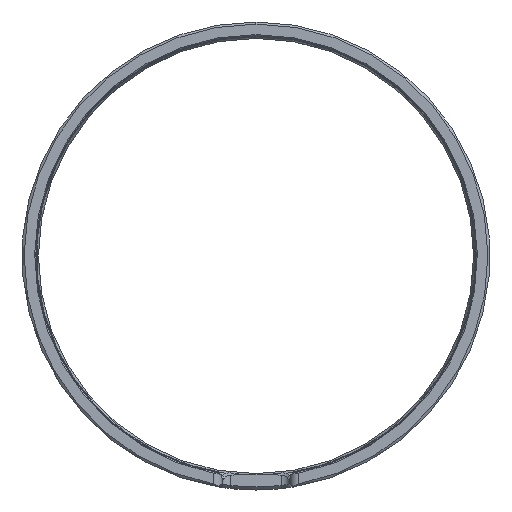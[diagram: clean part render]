
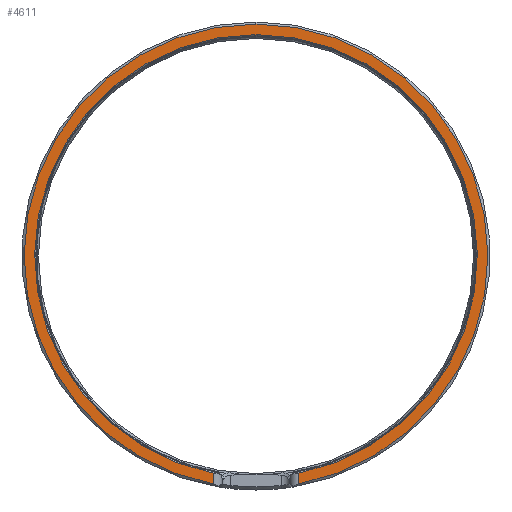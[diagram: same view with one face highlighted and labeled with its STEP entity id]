
A CAD part, left-side view. The second image highlights one B-rep face of the part: STEP entity #4611.
In plain terms, the highlighted planar face has unit normal (-1, 0, 0).
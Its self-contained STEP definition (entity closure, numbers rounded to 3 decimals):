
#13 = ORIENTED_EDGE ( 'NONE', *, *, #4896, .T. ) ;
#65 = AXIS2_PLACEMENT_3D ( 'NONE', #459, #2688, #2749 ) ;
#148 = ORIENTED_EDGE ( 'NONE', *, *, #3190, .F. ) ;
#363 = CARTESIAN_POINT ( 'NONE',  ( -400., 10.2, -51.984 ) ) ;
#423 = CARTESIAN_POINT ( 'NONE',  ( -400., 10.2, -56. ) ) ;
#447 = VECTOR ( 'NONE', #456, 1000. ) ;
#456 = DIRECTION ( 'NONE',  ( 0., 0., 1. ) ) ;
#459 = CARTESIAN_POINT ( 'NONE',  ( -400., 0., 0. ) ) ;
#480 = DIRECTION ( 'NONE',  ( -1., 0., 0. ) ) ;
#967 = ORIENTED_EDGE ( 'NONE', *, *, #1745, .T. ) ;
#1215 = CARTESIAN_POINT ( 'NONE',  ( -400., 0., 0. ) ) ;
#1271 = CARTESIAN_POINT ( 'NONE',  ( -400., -10.2, -51.984 ) ) ;
#1304 = EDGE_CURVE ( 'NONE', #3663, #1775, #3194, .T. ) ;
#1349 = DIRECTION ( 'NONE',  ( 0., 0., 1. ) ) ;
#1365 = CARTESIAN_POINT ( 'NONE',  ( -400., 10.2, -54.555 ) ) ;
#1389 = AXIS2_PLACEMENT_3D ( 'NONE', #4487, #480, #3552 ) ;
#1675 = FACE_OUTER_BOUND ( 'NONE', #3776, .T. ) ;
#1719 = VERTEX_POINT ( 'NONE', #1271 ) ;
#1745 = EDGE_CURVE ( 'NONE', #3839, #2216, #2758, .T. ) ;
#1775 = VERTEX_POINT ( 'NONE', #363 ) ;
#1885 = VECTOR ( 'NONE', #1349, 1000. ) ;
#2083 = AXIS2_PLACEMENT_3D ( 'NONE', #2607, #2147, #4000 ) ;
#2147 = DIRECTION ( 'NONE',  ( -1., 0., 0. ) ) ;
#2216 = VERTEX_POINT ( 'NONE', #3818 ) ;
#2343 = EDGE_CURVE ( 'NONE', #3839, #1719, #3751, .T. ) ;
#2607 = CARTESIAN_POINT ( 'NONE',  ( -400., 0., 0. ) ) ;
#2688 = DIRECTION ( 'NONE',  ( -1., 0., 0. ) ) ;
#2749 = DIRECTION ( 'NONE',  ( 0., 0., 1. ) ) ;
#2758 = CIRCLE ( 'NONE', #1389, 55.5 ) ;
#2997 = CARTESIAN_POINT ( 'NONE',  ( -400., -10.2, -54.555 ) ) ;
#3190 = EDGE_CURVE ( 'NONE', #1719, #1775, #5273, .T. ) ;
#3194 = LINE ( 'NONE', #423, #447 ) ;
#3552 = DIRECTION ( 'NONE',  ( 0., 0., 1. ) ) ;
#3663 = VERTEX_POINT ( 'NONE', #1365 ) ;
#3751 = LINE ( 'NONE', #5143, #1885 ) ;
#3776 = EDGE_LOOP ( 'NONE', ( #5728, #967, #13, #4127, #148 ) ) ;
#3818 = CARTESIAN_POINT ( 'NONE',  ( -400., 0., 55.5 ) ) ;
#3839 = VERTEX_POINT ( 'NONE', #2997 ) ;
#3928 = AXIS2_PLACEMENT_3D ( 'NONE', #1215, #4463, #5259 ) ;
#4000 = DIRECTION ( 'NONE',  ( 0., 0., 1. ) ) ;
#4127 = ORIENTED_EDGE ( 'NONE', *, *, #1304, .T. ) ;
#4463 = DIRECTION ( 'NONE',  ( -1., 0., 0. ) ) ;
#4487 = CARTESIAN_POINT ( 'NONE',  ( -400., 0., 0. ) ) ;
#4611 = ADVANCED_FACE ( 'NONE', ( #1675 ), #5374, .T. ) ;
#4896 = EDGE_CURVE ( 'NONE', #2216, #3663, #5470, .T. ) ;
#5143 = CARTESIAN_POINT ( 'NONE',  ( -400., -10.2, -56. ) ) ;
#5259 = DIRECTION ( 'NONE',  ( 0., 0., -1. ) ) ;
#5273 = CIRCLE ( 'NONE', #65, 52.975 ) ;
#5374 = PLANE ( 'NONE',  #3928 ) ;
#5470 = CIRCLE ( 'NONE', #2083, 55.5 ) ;
#5728 = ORIENTED_EDGE ( 'NONE', *, *, #2343, .F. ) ;
